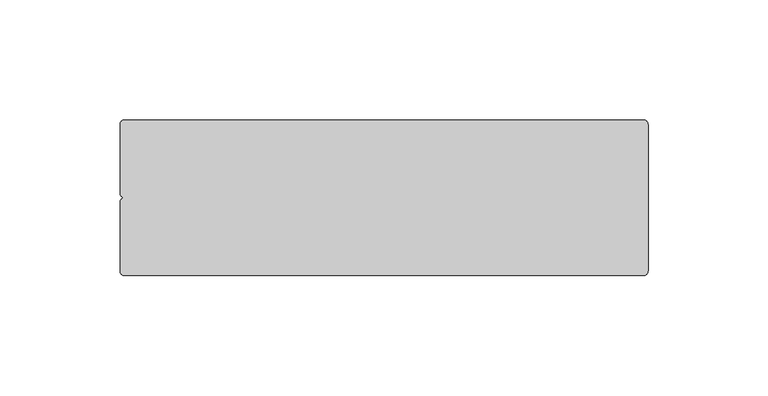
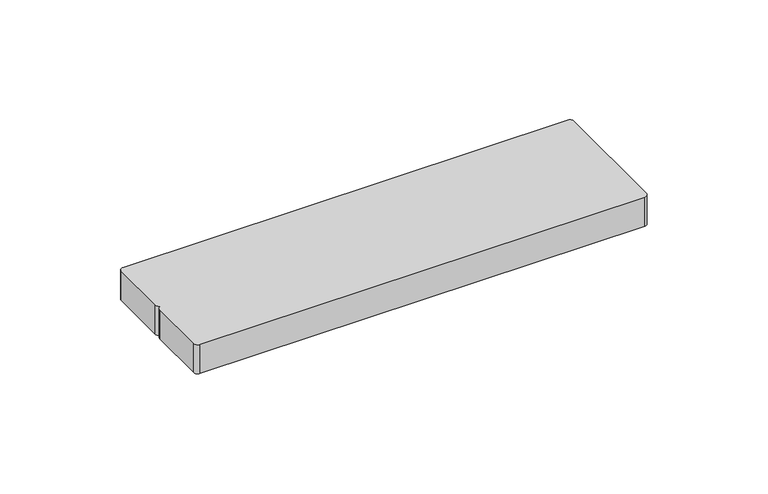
"""IFC4 building model written with IfcOpenShell, lengths in millimetres: duct fitting geometry, Заглушка торцевая - для кабель-каналов DLP - белый : 65х220мм."""

from ifc_helpers import new_model, si_unit, point, frame_2d, origin, origin_with_axes, place, context, project, spatial, polyline, circle_curve, trimmed, segment, composite_curve, outline, extrude, source, transform, mapped, element, save


def duct_fitting_bd13cb54(model_context):
    return source(origin(), model_context, "Body", "SweptSolid", [
        extrude(outline(composite_curve([segment(trimmed(circle_curve(frame_2d((-108.0, -2.0)), 2.0), [point((-110.0, -2.0))], [point((-108.0, 0.0))], False, "CARTESIAN"), True, "CONTINUOUS"), segment(trimmed(circle_curve(frame_2d((-108.0, 2.0)), 2.0), [point((-108.0, 0.0))], [point((-110.0, 2.0))], False, "CARTESIAN"), True, "CONTINUOUS"), segment(polyline([(-110.0, 2.0), (-110.0, 30.5)]), True, "CONTINUOUS"), segment(trimmed(circle_curve(frame_2d((-108.0, 30.5)), 2.0), [point((-110.0, 30.5))], [point((-108.0, 32.5))], False, "CARTESIAN"), True, "CONTINUOUS"), segment(polyline([(-108.0, 32.5), (108.0, 32.5)]), True, "CONTINUOUS"), segment(trimmed(circle_curve(frame_2d((108.0, 30.5)), 2.0), [point((108.0, 32.5))], [point((110.0, 30.5))], False, "CARTESIAN"), True, "CONTINUOUS"), segment(polyline([(110.0, 30.5), (110.0, -30.5)]), True, "CONTINUOUS"), segment(trimmed(circle_curve(frame_2d((108.0, -30.5)), 2.0), [point((110.0, -30.5))], [point((108.0, -32.5))], False, "CARTESIAN"), True, "CONTINUOUS"), segment(polyline([(108.0, -32.5), (-108.0, -32.5)]), True, "CONTINUOUS"), segment(trimmed(circle_curve(frame_2d((-108.0, -30.5)), 2.0), [point((-108.0, -32.5))], [point((-110.0, -30.5))], False, "CARTESIAN"), True, "CONTINUOUS"), segment(polyline([(-110.0, -30.5), (-110.0, -2.0)]), True, "CONTINUOUS")], self_intersect=False)), origin_with_axes(), (0.0, 0.0, 1.0), 15.0),
    ])


if __name__ == "__main__":
    model = new_model("IFC4")
    model_context = context("Model", 3, world=origin())
    ifc_project = project(units=[si_unit("LENGTHUNIT", "METRE", prefix="MILLI")], contexts=[model_context])
    site = spatial("IfcSite", under=ifc_project)
    building = spatial("IfcBuilding", under=site)
    placement = place(None, origin())
    duct_fitting_shape = duct_fitting_bd13cb54(model_context)
    element("IfcDuctFitting", 1, ObjectType="Заглушка торцевая - для кабель-каналов DLP - белый : 65х220мм", at=placement, inside=building, context=model_context, shape_type="MappedRepresentation", body=[
        mapped(duct_fitting_shape, transform((0.0, 0.0, 0.0), x_axis=(1.0, 0.0, 0.0), y_axis=(0.0, 1.0, 0.0), z_axis=(0.0, 0.0, 1.0))),
    ])
    save(model, "model.ifc")
